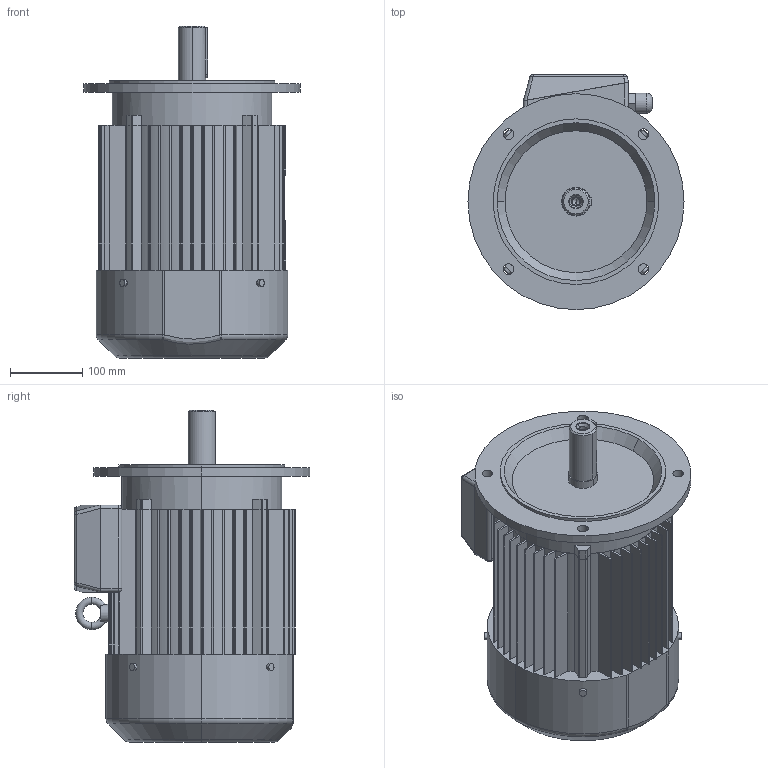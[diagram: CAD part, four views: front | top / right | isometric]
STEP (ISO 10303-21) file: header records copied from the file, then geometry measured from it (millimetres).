
FILE_DESCRIPTION (( 'STEP AP203' ), '1' );
FILE_NAME ('SKg 132S-B5.STEP', '2010-02-09T12:38:42', ( 'INDUKTA' ), ( 'CANTONI MOTOR' ), 'SwSTEP 2.0', 'SolidWorks 2003064', '' );
FILE_SCHEMA (( 'CONFIG_CONTROL_DESIGN' ));
Length unit declared in the file: millimetre
Products named in the file (1): SKg 132S-B5
Bounding box: 300 x 327 x 461 mm (x, y, z)
Volume: 18353495.5 mm3; surface area: 978893.6 mm2
Topology: 12 solids, 12 shells, 492 faces, 1322 edges, 850 vertices
Faces by surface type: plane 231, cylinder 181, bspline 43, cone 14, torus 13, sphere 10
Entity records: 19021 total; most frequent: CARTESIAN_POINT 6705, ORIENTED_EDGE 2620, DIRECTION 2489, EDGE_CURVE 1310, VERTEX_POINT 850, AXIS2_PLACEMENT_3D 850, LINE 789, VECTOR 789
